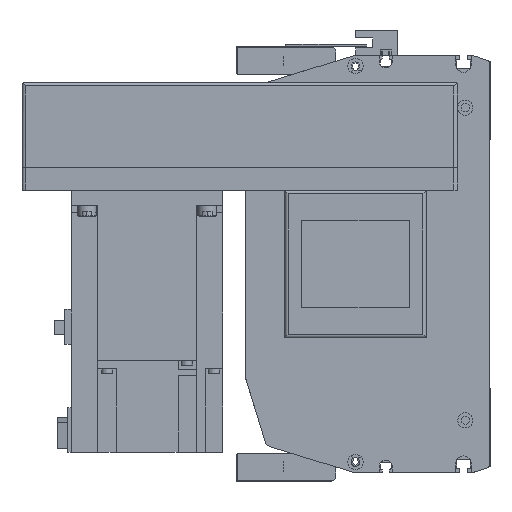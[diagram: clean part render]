
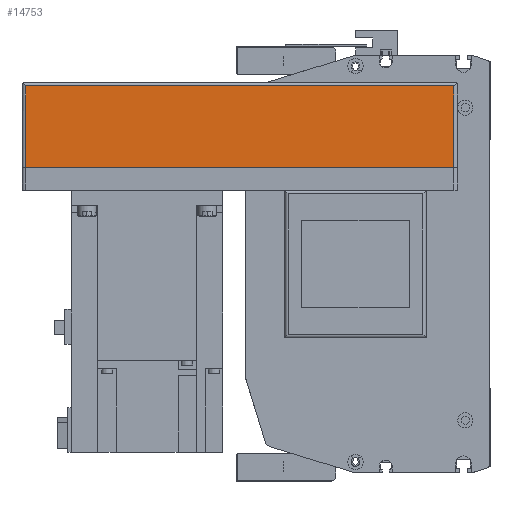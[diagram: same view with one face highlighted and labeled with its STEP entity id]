
A CAD part, left-side view. The second image highlights one B-rep face of the part: STEP entity #14753.
In plain terms, the highlighted planar face has unit normal (-1, 0, 0) as drawn and (0, 1, 0) by its records, which use the part's own axes.
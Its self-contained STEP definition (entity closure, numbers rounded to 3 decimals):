
#2508=ORIENTED_EDGE('',*,*,#6010,.F.);
#2509=ORIENTED_EDGE('',*,*,#5950,.T.);
#2510=ORIENTED_EDGE('',*,*,#6011,.F.);
#2511=ORIENTED_EDGE('',*,*,#5945,.F.);
#5945=EDGE_CURVE('',#7842,#7843,#9368,.T.);
#5950=EDGE_CURVE('',#7848,#7847,#9370,.T.);
#6010=EDGE_CURVE('',#7848,#7842,#9413,.T.);
#6011=EDGE_CURVE('',#7843,#7847,#9414,.T.);
#7842=VERTEX_POINT('',#22962);
#7843=VERTEX_POINT('',#22964);
#7847=VERTEX_POINT('',#22973);
#7848=VERTEX_POINT('',#22975);
#9368=LINE('',#22963,#10717);
#9370=LINE('',#22974,#10719);
#9413=LINE('',#23097,#10762);
#9414=LINE('',#23098,#10763);
#10717=VECTOR('',#18339,1000.);
#10719=VECTOR('',#18349,1000.);
#10762=VECTOR('',#18470,1000.);
#10763=VECTOR('',#18471,1000.);
#11920=EDGE_LOOP('',(#2508,#2509,#2510,#2511));
#13101=FACE_BOUND('',#11920,.T.);
#14120=PLANE('',#15842);
#14753=ADVANCED_FACE('',(#13101),#14120,.T.);
#15842=AXIS2_PLACEMENT_3D('',#23096,#18468,#18469);
#18339=DIRECTION('',(0.,0.,1.));
#18349=DIRECTION('',(0.,0.,1.));
#18468=DIRECTION('',(0.,1.,0.));
#18469=DIRECTION('',(0.,0.,1.));
#18470=DIRECTION('',(1.,0.,0.));
#18471=DIRECTION('',(-1.,0.,0.));
#22962=CARTESIAN_POINT('',(-2.,54.,-55.));
#22963=CARTESIAN_POINT('',(-2.,54.,-57.));
#22964=CARTESIAN_POINT('',(-2.,54.,-12.));
#22973=CARTESIAN_POINT('',(-228.,54.,-12.));
#22974=CARTESIAN_POINT('',(-228.,54.,-57.));
#22975=CARTESIAN_POINT('',(-228.,54.,-55.));
#23096=CARTESIAN_POINT('',(-2.,54.,-57.));
#23097=CARTESIAN_POINT('',(-230.,54.,-55.));
#23098=CARTESIAN_POINT('',(-2.,54.,-12.));
